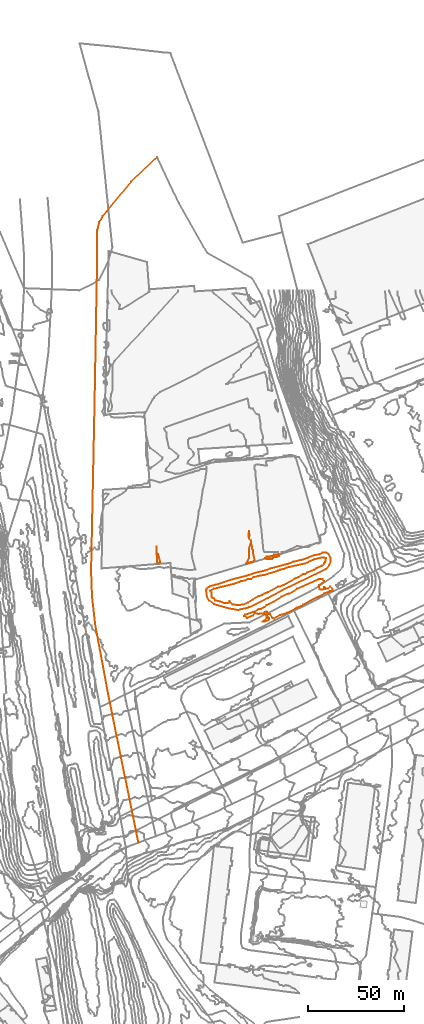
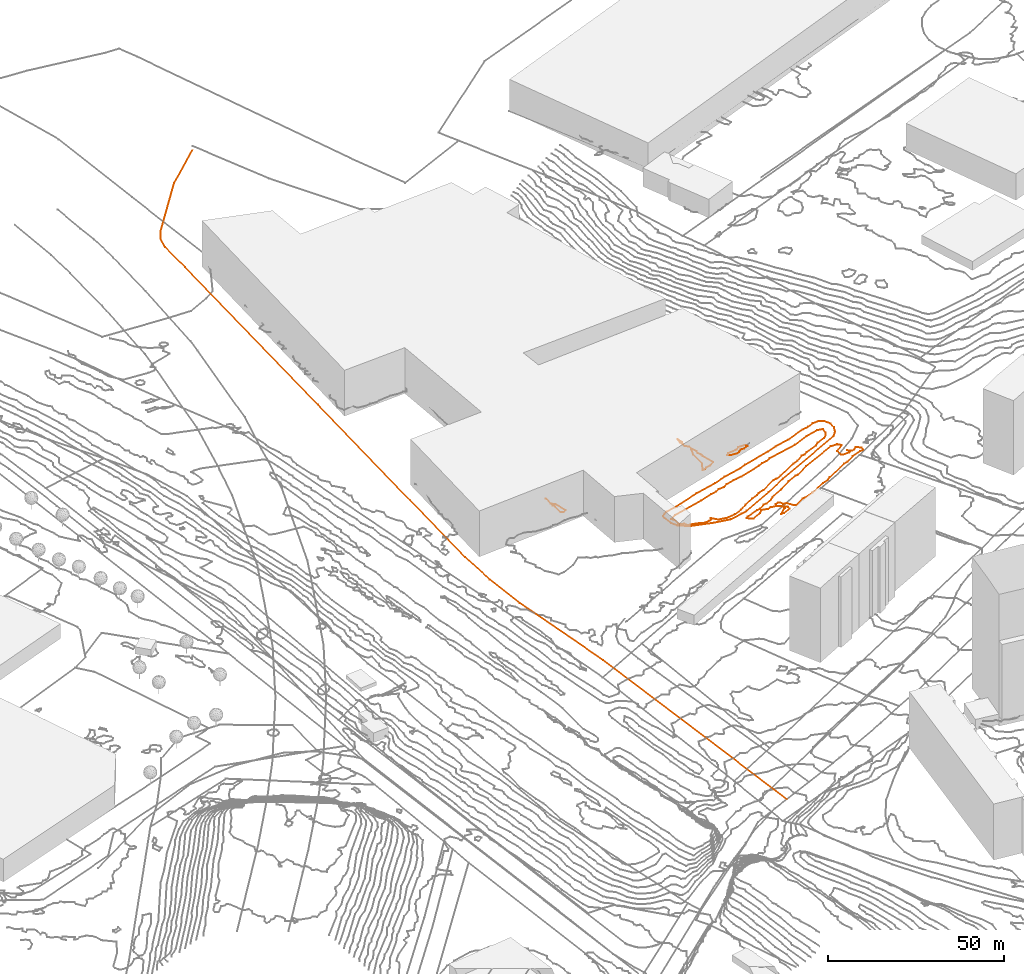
# Not in any storey, part 308 of 419: 7 proxies.
"""IFC2X3 model written with IfcOpenShell, lengths in metres."""

from ifc_helpers import new_model, entity, si_unit, frame, origin_with_axes, place, context, subcontext, project, element, save


model = new_model("IFC2X3")

# Units and contexts
model_context = context("Model", 3, precision=1e-05, world=origin_with_axes())
body_context = subcontext(model_context, "Body", "Model", "MODEL_VIEW")
ifc_project = project(units=[si_unit("AREAUNIT", "SQUARE_METRE"), si_unit("LENGTHUNIT", "METRE")], contexts=[model_context])

# Proxies
proxy_1_placement = place(None, frame((197.2920204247, 887.0976909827, 31.1233005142), z_axis=(0.0, 0.0, 1.0), x_axis=(1.0, 0.0, 0.0)))
element("IfcBuildingElementProxy", 1, at=proxy_1_placement, Name="Route 317", ObjectType="NOTDEFINED", context=body_context, shape_type="GeometricCurveSet", body=[
    entity("IfcGeometricCurveSet", [entity("IfcPolyline", [entity("IfcCartesianPoint", [34.2000000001, 214.5999999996, -0.4202998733]), entity("IfcCartesianPoint", [20.8, 201.8999999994, 0.3166990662]), entity("IfcCartesianPoint", [6.0, 184.0, -0.3633002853]), entity("IfcCartesianPoint", [4.2000000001, 180.7999999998, -0.3943009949]), entity("IfcCartesianPoint", [3.2000000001, 176.5999999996, -0.4033012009]), entity("IfcCartesianPoint", [3.2000000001, 165.0999999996, -0.4033012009]), entity("IfcCartesianPoint", [1.8, 87.0, -0.2748001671]), entity("IfcCartesianPoint", [0.0, 0.0, 0.0]), entity("IfcCartesianPoint", [0.5, -13.1000000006, 0.0634999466]), entity("IfcCartesianPoint", [2.1000000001, -27.4000000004, -0.0089003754]), entity("IfcCartesianPoint", [8.8, -63.4000000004, -0.445300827]), entity("IfcCartesianPoint", [24.5, -140.7000000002, -7.393300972])])]),
])
proxy_2_placement = place(None, frame((287.3420243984, 893.8976909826, 31.0), z_axis=(0.0, 0.0, 1.0), x_axis=(1.0, 0.0, 0.0)))
element("IfcBuildingElementProxy", 2, at=proxy_2_placement, Name="Contour 31.0 m", ObjectType="NOTDEFINED", context=body_context, shape_type="GeometricCurveSet", body=[
    entity("IfcGeometricCurveSet", [entity("IfcPolyline", [entity("IfcCartesianPoint", [4.1785661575, 0.0, 0.0]), entity("IfcCartesianPoint", [3.7499960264, -0.4285701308, 0.0]), entity("IfcCartesianPoint", [2.7499960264, -0.6744202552, 0.0]), entity("IfcCartesianPoint", [0.7499960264, -0.5625014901, 0.0]), entity("IfcCartesianPoint", [0.0, 0.0, 0.0]), entity("IfcCartesianPoint", [0.7499960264, 0.6923031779, 0.0]), entity("IfcCartesianPoint", [3.7499710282, 1.0, 0.0]), entity("IfcCartesianPoint", [4.7499960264, 1.8461515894, 0.0]), entity("IfcCartesianPoint", [6.7499960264, 1.7999961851, 0.0]), entity("IfcCartesianPoint", [7.3214265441, 1.0, 0.0]), entity("IfcCartesianPoint", [5.7499960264, 0.3888885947, 0.0]), entity("IfcCartesianPoint", [4.7499960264, 0.5217394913, 0.0]), entity("IfcCartesianPoint", [4.1785661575, 0.0, 0.0])])]),
])
proxy_3_placement = place(None, frame((231.0920061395, 895.8976909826, 32.0), z_axis=(0.0, 0.0, 1.0), x_axis=(1.0, 0.0, 0.0)))
element("IfcBuildingElementProxy", 3, at=proxy_3_placement, Name="Contour 32.0 m", ObjectType="NOTDEFINED", context=body_context, shape_type="GeometricCurveSet", body=[
    entity("IfcGeometricCurveSet", [entity("IfcPolyline", [entity("IfcCartesianPoint", [2.0000309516, -4.0, 0.0]), entity("IfcCartesianPoint", [1.0000142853, -4.5000099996, 0.0]), entity("IfcCartesianPoint", [0.2857363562, -4.0, 0.0]), entity("IfcCartesianPoint", [0.3333476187, -1.0, 0.0]), entity("IfcCartesianPoint", [0.0, 0.0, 0.0]), entity("IfcCartesianPoint", [1.42853e-05, 4.0000499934, 0.0]), entity("IfcCartesianPoint", [6.42792e-05, 1.0, 0.0]), entity("IfcCartesianPoint", [1.0000142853, 4.99934e-05, 0.0]), entity("IfcCartesianPoint", [2.0000309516, -4.0, 0.0])])]),
])
proxy_4_placement = place(None, frame((277.5919704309, 890.8976909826, 31.0), z_axis=(0.0, 0.0, 1.0), x_axis=(1.0, 0.0, 0.0)))
element("IfcBuildingElementProxy", 4, at=proxy_4_placement, Name="Contour 31.0 m", ObjectType="NOTDEFINED", context=body_context, shape_type="GeometricCurveSet", body=[
    entity("IfcGeometricCurveSet", [entity("IfcPolyline", [entity("IfcCartesianPoint", [0.8333833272, 0.0, 0.0]), entity("IfcCartesianPoint", [0.0, 0.0, 0.0]), entity("IfcCartesianPoint", [1.4999500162, 3.0, 0.0]), entity("IfcCartesianPoint", [1.5, 8.0, 0.0]), entity("IfcCartesianPoint", [2.4999500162, 11.0, 0.0]), entity("IfcCartesianPoint", [2.4999500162, 12.0, 0.0]), entity("IfcCartesianPoint", [1.5, 13.0, 0.0]), entity("IfcCartesianPoint", [1.2500499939, 15.0, 0.0]), entity("IfcCartesianPoint", [1.5000499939, 17.0000999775, 0.0]), entity("IfcCartesianPoint", [1.8333833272, 15.0, 0.0]), entity("IfcCartesianPoint", [1.5001499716, 13.0, 0.0]), entity("IfcCartesianPoint", [2.5000499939, 12.0000999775, 0.0]), entity("IfcCartesianPoint", [2.5000833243, 11.0, 0.0]), entity("IfcCartesianPoint", [3.1667166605, 9.0, 0.0]), entity("IfcCartesianPoint", [3.0000999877, 8.0, 0.0]), entity("IfcCartesianPoint", [3.5000749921, 7.0, 0.0]), entity("IfcCartesianPoint", [3.5000833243, 6.0, 0.0]), entity("IfcCartesianPoint", [4.5000749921, 2.0, 0.0]), entity("IfcCartesianPoint", [3.0000749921, 1.0, 0.0]), entity("IfcCartesianPoint", [1.5000499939, 0.666666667, 0.0]), entity("IfcCartesianPoint", [0.8333833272, 0.0, 0.0])])]),
])
proxy_5_placement = place(None, frame((259.054283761, 876.8976909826, 29.0), z_axis=(0.0, 0.0, 1.0), x_axis=(1.0, 0.0, 0.0)))
element("IfcBuildingElementProxy", 5, at=proxy_5_placement, Name="Contour 29.0 m", ObjectType="NOTDEFINED", context=body_context, shape_type="GeometricCurveSet", body=[
    entity("IfcGeometricCurveSet", [entity("IfcPolyline", [entity("IfcCartesianPoint", [17.0377366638, -7.122447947, 0.0]), entity("IfcCartesianPoint", [19.6627396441, -6.0, 0.0]), entity("IfcCartesianPoint", [22.0377366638, -4.4210510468, 0.0]), entity("IfcCartesianPoint", [25.0377366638, -2.8124955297, 0.0]), entity("IfcCartesianPoint", [27.2044068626, -2.0, 0.0]), entity("IfcCartesianPoint", [28.0377366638, -1.3181814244, 0.0]), entity("IfcCartesianPoint", [30.0377366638, -0.7058869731, 0.0]), entity("IfcCartesianPoint", [35.0377366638, 2.1818213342, 0.0]), entity("IfcCartesianPoint", [36.0377366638, 2.2307726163, 0.0]), entity("IfcCartesianPoint", [37.8710673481, 3.0, 0.0]), entity("IfcCartesianPoint", [44.0377366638, 6.4117627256, 0.0]), entity("IfcCartesianPoint", [45.637739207, 7.0, 0.0]), entity("IfcCartesianPoint", [48.0377366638, 8.6499995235, 0.0]), entity("IfcCartesianPoint", [49.0377366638, 8.65789619, 0.0]), entity("IfcCartesianPoint", [50.0377366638, 9.4117627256, 0.0]), entity("IfcCartesianPoint", [54.0377366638, 10.9761899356, 0.0]), entity("IfcCartesianPoint", [55.0377366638, 11.8799972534, 0.0]), entity("IfcCartesianPoint", [57.9324713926, 13.0, 0.0]), entity("IfcCartesianPoint", [59.0377366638, 14.0000076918, 0.0]), entity("IfcCartesianPoint", [59.5794003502, 15.0, 0.0]), entity("IfcCartesianPoint", [59.8710673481, 17.0, 0.0]), entity("IfcCartesianPoint", [58.0377366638, 17.3529434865, 0.0]), entity("IfcCartesianPoint", [54.0377366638, 16.374999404, 0.0]), entity("IfcCartesianPoint", [49.0377366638, 14.2258058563, 0.0]), entity("IfcCartesianPoint", [39.4663080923, 12.0, 0.0]), entity("IfcCartesianPoint", [38.0377366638, 11.2903235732, 0.0]), entity("IfcCartesianPoint", [36.2877406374, 11.0, 0.0]), entity("IfcCartesianPoint", [35.0377366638, 10.3750007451, 0.0]), entity("IfcCartesianPoint", [28.0377366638, 8.24390346, 0.0]), entity("IfcCartesianPoint", [25.0377366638, 7.7419352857, 0.0]), entity("IfcCartesianPoint", [22.3710752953, 7.0, 0.0]), entity("IfcCartesianPoint", [21.0377366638, 6.2068954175, 0.0]), entity("IfcCartesianPoint", [19.2044086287, 6.0, 0.0]), entity("IfcCartesianPoint", [18.0377366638, 5.3666673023, 0.0]), entity("IfcCartesianPoint", [16.0377366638, 4.9999928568, 0.0]), entity("IfcCartesianPoint", [12.0377366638, 3.6000025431, 0.0]), entity("IfcCartesianPoint", [2.0377366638, 1.0600013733, 0.0]), entity("IfcCartesianPoint", [0.0, 0.0, 0.0]), entity("IfcCartesianPoint", [0.6091667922, -1.0, 0.0]), entity("IfcCartesianPoint", [0.658427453, -3.0, 0.0]), entity("IfcCartesianPoint", [1.0377366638, -3.5641016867, 0.0]), entity("IfcCartesianPoint", [2.0377366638, -3.9230757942, 0.0]), entity("IfcCartesianPoint", [2.5671490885, -5.0, 0.0]), entity("IfcCartesianPoint", [5.0377366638, -5.4999964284, 0.0]), entity("IfcCartesianPoint", [7.0377366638, -6.39473671, 0.0]), entity("IfcCartesianPoint", [9.0377366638, -6.2500029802, 0.0]), entity("IfcCartesianPoint", [9.7044033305, -6.0, 0.0]), entity("IfcCartesianPoint", [10.0377366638, -5.333333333, 0.0]), entity("IfcCartesianPoint", [11.5377533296, -7.0, 0.0]), entity("IfcCartesianPoint", [14.0377366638, -7.4736836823, 0.0]), entity("IfcCartesianPoint", [17.0377366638, -7.122447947, 0.0])])]),
])
proxy_6_placement = place(None, frame((256.9461875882, 876.8976909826, 30.0), z_axis=(0.0, 0.0, 1.0), x_axis=(1.0, 0.0, 0.0)))
element("IfcBuildingElementProxy", 6, at=proxy_6_placement, Name="Contour 30.0 m", ObjectType="NOTDEFINED", context=body_context, shape_type="GeometricCurveSet", body=[
    entity("IfcGeometricCurveSet", [entity("IfcPolyline", [entity("IfcCartesianPoint", [20.1458328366, -9.1086942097, 0.0]), entity("IfcCartesianPoint", [22.1458328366, -8.5499988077, 0.0]), entity("IfcCartesianPoint", [32.1458328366, -3.6363610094, 0.0]), entity("IfcCartesianPoint", [39.1458328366, 0.1944432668, 0.0]), entity("IfcCartesianPoint", [62.1458328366, 11.2903235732, 0.0]), entity("IfcCartesianPoint", [63.5744027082, 13.0, 0.0]), entity("IfcCartesianPoint", [64.3958339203, 15.0, 0.0]), entity("IfcCartesianPoint", [64.4791646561, 17.0, 0.0]), entity("IfcCartesianPoint", [63.4895850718, 19.0, 0.0]), entity("IfcCartesianPoint", [62.1458328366, 19.8124995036, 0.0]), entity("IfcCartesianPoint", [60.1458328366, 19.6999990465, 0.0]), entity("IfcCartesianPoint", [58.1458328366, 18.8301886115, 0.0]), entity("IfcCartesianPoint", [56.1458328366, 18.5294124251, 0.0]), entity("IfcCartesianPoint", [50.1458328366, 16.2291672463, 0.0]), entity("IfcCartesianPoint", [45.1458328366, 15.0454555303, 0.0]), entity("IfcCartesianPoint", [42.1458328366, 13.965516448, 0.0]), entity("IfcCartesianPoint", [33.1458328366, 11.5238077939, 0.0]), entity("IfcCartesianPoint", [31.1458328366, 10.7142868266, 0.0]), entity("IfcCartesianPoint", [25.1458328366, 9.2444453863, 0.0]), entity("IfcCartesianPoint", [21.1458328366, 7.8627457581, 0.0]), entity("IfcCartesianPoint", [14.1458328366, 6.1162777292, 0.0]), entity("IfcCartesianPoint", [5.1458328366, 3.2000007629, 0.0]), entity("IfcCartesianPoint", [2.1458328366, 2.4897956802, 0.0]), entity("IfcCartesianPoint", [1.1458328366, 1.9999970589, 0.0]), entity("IfcCartesianPoint", [0.1458328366, 1.0476199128, 0.0]), entity("IfcCartesianPoint", [0.0, 0.0, 0.0]), entity("IfcCartesianPoint", [0.3620483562, -3.0, 0.0]), entity("IfcCartesianPoint", [1.4895850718, -5.0, 0.0]), entity("IfcCartesianPoint", [4.1458328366, -6.9799995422, 0.0]), entity("IfcCartesianPoint", [11.1458328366, -9.0227277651, 0.0]), entity("IfcCartesianPoint", [16.1458328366, -9.9565208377, 0.0]), entity("IfcCartesianPoint", [20.1458328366, -9.1086942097, 0.0])])]),
])
proxy_7_placement = place(None, frame((276.4920204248, 863.8976909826, 31.0), z_axis=(0.0, 0.0, 1.0), x_axis=(1.0, 0.0, 0.0)))
element("IfcBuildingElementProxy", 7, at=proxy_7_placement, Name="Contour 31.0 m", ObjectType="NOTDEFINED", context=body_context, shape_type="GeometricCurveSet", body=[
    entity("IfcGeometricCurveSet", [entity("IfcPolyline", [entity("IfcCartesianPoint", [10.6000249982, -3.0, 0.0]), entity("IfcCartesianPoint", [9.5999666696, -3.0, 0.0]), entity("IfcCartesianPoint", [11.6, -1.1666719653, 0.0]), entity("IfcCartesianPoint", [12.0999500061, -1.0, 0.0]), entity("IfcCartesianPoint", [11.6, -9.99775e-05, 0.0]), entity("IfcCartesianPoint", [10.6, 0.9999000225, 0.0]), entity("IfcCartesianPoint", [8.6, 1.333333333, 0.0]), entity("IfcCartesianPoint", [7.6, 0.9999000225, 0.0]), entity("IfcCartesianPoint", [5.6, 1.4999750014, 0.0]), entity("IfcCartesianPoint", [4.6, 0.3000057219, 0.0]), entity("IfcCartesianPoint", [1.6, -1.0000142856, 0.0]), entity("IfcCartesianPoint", [0.0, 0.0, 0.0]), entity("IfcCartesianPoint", [0.6, 0.5999999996, 0.0]), entity("IfcCartesianPoint", [4.6, 2.0714305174, 0.0]), entity("IfcCartesianPoint", [5.6, 2.2000038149, 0.0]), entity("IfcCartesianPoint", [7.6, 3.4666658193, 0.0]), entity("IfcCartesianPoint", [8.6, 3.5999999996, 0.0]), entity("IfcCartesianPoint", [10.6, 4.5714285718, 0.0]), entity("IfcCartesianPoint", [11.6, 5.5000062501, 0.0]), entity("IfcCartesianPoint", [15.6, 7.5333341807, 0.0]), entity("IfcCartesianPoint", [19.5999900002, 10.0, 0.0]), entity("IfcCartesianPoint", [22.6, 11.4285701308, 0.0]), entity("IfcCartesianPoint", [23.6, 11.5000055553, 0.0]), entity("IfcCartesianPoint", [27.6, 14.0400009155, 0.0]), entity("IfcCartesianPoint", [38.5999800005, 19.0, 0.0]), entity("IfcCartesianPoint", [40.6000999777, 19.0, 0.0]), entity("IfcCartesianPoint", [41.6000249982, 18.0, 0.0]), entity("IfcCartesianPoint", [38.9333333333, 16.0, 0.0]), entity("IfcCartesianPoint", [39.1000499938, 14.0, 0.0]), entity("IfcCartesianPoint", [39.6, 13.666666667, 0.0]), entity("IfcCartesianPoint", [41.6, 13.7999999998, 0.0]), entity("IfcCartesianPoint", [42.0999500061, 14.0, 0.0]), entity("IfcCartesianPoint", [41.6, 14.9999000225, 0.0]), entity("IfcCartesianPoint", [41.6, 15.0000333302, 0.0]), entity("IfcCartesianPoint", [42.6, 14.1250029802, 0.0]), entity("IfcCartesianPoint", [43.6, 14.2727320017, 0.0]), entity("IfcCartesianPoint", [44.6, 15.1666719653, 0.0]), entity("IfcCartesianPoint", [45.8857220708, 14.0, 0.0]), entity("IfcCartesianPoint", [45.8272699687, 13.0, 0.0]), entity("IfcCartesianPoint", [45.6, 12.8484871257, 0.0]), entity("IfcCartesianPoint", [44.6, 12.7777730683, 0.0]), entity("IfcCartesianPoint", [41.6, 11.6428610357, 0.0]), entity("IfcCartesianPoint", [38.9636426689, 10.0, 0.0]), entity("IfcCartesianPoint", [37.6, 9.5833359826, 0.0]), entity("IfcCartesianPoint", [30.6, 5.8461515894, 0.0]), entity("IfcCartesianPoint", [29.6, 4.9999916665, 0.0]), entity("IfcCartesianPoint", [27.6, 4.3529378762, 0.0]), entity("IfcCartesianPoint", [22.6, 1.6800003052, 0.0]), entity("IfcCartesianPoint", [19.6, 0.6153880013, 0.0]), entity("IfcCartesianPoint", [18.6, 0.5384626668, 0.0]), entity("IfcCartesianPoint", [15.6, -1.2941130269, 0.0]), entity("IfcCartesianPoint", [14.7666719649, -1.0, 0.0]), entity("IfcCartesianPoint", [13.6, 0.8571389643, 0.0]), entity("IfcCartesianPoint", [12.6, 0.9999500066, 0.0]), entity("IfcCartesianPoint", [12.0999500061, 2.0, 0.0]), entity("IfcCartesianPoint", [11.6, 2.333333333, 0.0]), entity("IfcCartesianPoint", [10.6000999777, 2.0, 0.0]), entity("IfcCartesianPoint", [10.6000249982, 1.0, 0.0]), entity("IfcCartesianPoint", [13.1000499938, -1.0, 0.0]), entity("IfcCartesianPoint", [12.9333333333, -2.0, 0.0]), entity("IfcCartesianPoint", [10.6000249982, -3.0, 0.0])])]),
])

save(model, "model.ifc")
